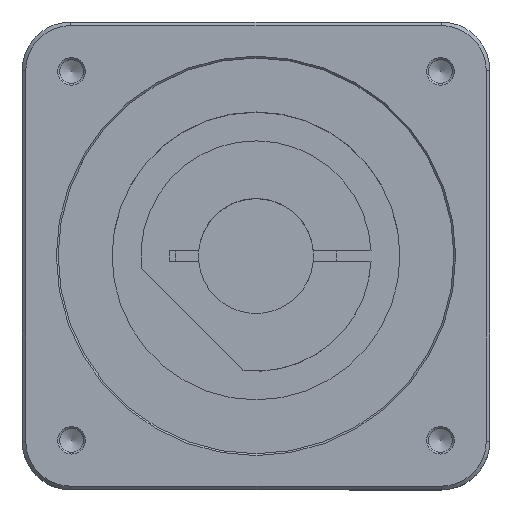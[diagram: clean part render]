
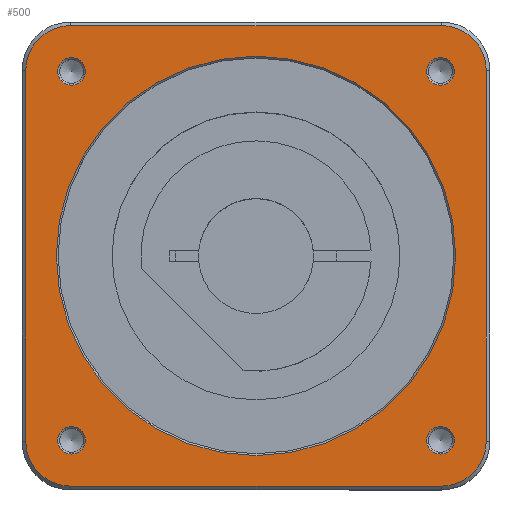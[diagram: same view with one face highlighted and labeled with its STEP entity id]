
A CAD part, top view. The second image highlights one B-rep face of the part: STEP entity #500.
In plain terms, the highlighted planar face has unit normal (0, 0, 1).
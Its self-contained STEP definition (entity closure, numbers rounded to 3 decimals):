
#366=CARTESIAN_POINT('',(-47.442,51.265,206.));
#367=VERTEX_POINT('',#366);
#368=CARTESIAN_POINT('',(-51.265,51.265,206.));
#369=DIRECTION('',(0.0,0.0,1.0));
#370=DIRECTION('',(-1.0,0.0,0.0));
#371=AXIS2_PLACEMENT_3D('',#368,#369,#370);
#372=CIRCLE('',#371,3.823);
#373=EDGE_CURVE('',#367,#367,#372,.T.);
#378=CARTESIAN_POINT('',(0.,0.,206.));
#379=DIRECTION('',(0.0,0.0,1.0));
#380=DIRECTION('',(0.0,-1.0,0.0));
#381=AXIS2_PLACEMENT_3D('',#378,#379,#380);
#382=PLANE('',#381);
#383=CARTESIAN_POINT('',(64.,51.5,206.0));
#384=VERTEX_POINT('',#383);
#385=CARTESIAN_POINT('',(64.,-51.5,206.0));
#386=VERTEX_POINT('',#385);
#387=CARTESIAN_POINT('',(64.0,51.5,206.0));
#388=DIRECTION('',(0.0,-1.0,0.0));
#389=VECTOR('',#388,103.0);
#390=LINE('',#387,#389);
#391=EDGE_CURVE('',#384,#386,#390,.T.);
#392=ORIENTED_EDGE('',*,*,#391,.F.);
#393=CARTESIAN_POINT('',(51.5,64.,206.0));
#394=VERTEX_POINT('',#393);
#395=CARTESIAN_POINT('',(51.5,51.5,206.0));
#396=DIRECTION('',(0.,0.,-1.0));
#397=DIRECTION('',(0.707,0.707,0.));
#398=AXIS2_PLACEMENT_3D('',#395,#396,#397);
#399=CIRCLE('',#398,12.5);
#400=EDGE_CURVE('',#394,#384,#399,.T.);
#401=ORIENTED_EDGE('',*,*,#400,.F.);
#402=CARTESIAN_POINT('',(-51.5,64.,206.));
#403=VERTEX_POINT('',#402);
#404=CARTESIAN_POINT('',(-51.5,64.,206.));
#405=DIRECTION('',(1.0,0.0,0.0));
#406=VECTOR('',#405,103.0);
#407=LINE('',#404,#406);
#408=EDGE_CURVE('',#403,#394,#407,.T.);
#409=ORIENTED_EDGE('',*,*,#408,.F.);
#410=CARTESIAN_POINT('',(-64.,51.5,206.));
#411=VERTEX_POINT('',#410);
#412=CARTESIAN_POINT('',(-51.5,51.5,206.));
#413=DIRECTION('',(0.,0.,-1.0));
#414=DIRECTION('',(-0.707,0.707,0.));
#415=AXIS2_PLACEMENT_3D('',#412,#413,#414);
#416=CIRCLE('',#415,12.5);
#417=EDGE_CURVE('',#411,#403,#416,.T.);
#418=ORIENTED_EDGE('',*,*,#417,.F.);
#419=CARTESIAN_POINT('',(-64.,-51.5,206.));
#420=VERTEX_POINT('',#419);
#421=CARTESIAN_POINT('',(-64.,-51.5,206.));
#422=DIRECTION('',(0.0,1.0,0.0));
#423=VECTOR('',#422,103.);
#424=LINE('',#421,#423);
#425=EDGE_CURVE('',#420,#411,#424,.T.);
#426=ORIENTED_EDGE('',*,*,#425,.F.);
#427=CARTESIAN_POINT('',(-51.5,-64.,206.));
#428=VERTEX_POINT('',#427);
#429=CARTESIAN_POINT('',(-51.5,-51.5,206.));
#430=DIRECTION('',(0.,0.,-1.0));
#431=DIRECTION('',(-0.707,-0.707,0.));
#432=AXIS2_PLACEMENT_3D('',#429,#430,#431);
#433=CIRCLE('',#432,12.5);
#434=EDGE_CURVE('',#428,#420,#433,.T.);
#435=ORIENTED_EDGE('',*,*,#434,.F.);
#436=CARTESIAN_POINT('',(51.5,-64.,206.0));
#437=VERTEX_POINT('',#436);
#438=CARTESIAN_POINT('',(51.5,-64.,206.0));
#439=DIRECTION('',(-1.0,0.0,0.0));
#440=VECTOR('',#439,103.);
#441=LINE('',#438,#440);
#442=EDGE_CURVE('',#437,#428,#441,.T.);
#443=ORIENTED_EDGE('',*,*,#442,.F.);
#444=CARTESIAN_POINT('',(51.5,-51.5,206.0));
#445=DIRECTION('',(0.,0.,-1.0));
#446=DIRECTION('',(0.707,-0.707,0.));
#447=AXIS2_PLACEMENT_3D('',#444,#445,#446);
#448=CIRCLE('',#447,12.5);
#449=EDGE_CURVE('',#386,#437,#448,.T.);
#450=ORIENTED_EDGE('',*,*,#449,.F.);
#451=EDGE_LOOP('',(#392,#401,#409,#418,#426,#435,#443,#450));
#452=FACE_OUTER_BOUND('',#451,.T.);
#453=CARTESIAN_POINT('',(-51.265,-47.442,206.));
#454=VERTEX_POINT('',#453);
#455=CARTESIAN_POINT('',(-51.265,-51.265,206.));
#456=DIRECTION('',(0.0,0.0,1.0));
#457=DIRECTION('',(0.0,-1.0,0.0));
#458=AXIS2_PLACEMENT_3D('',#455,#456,#457);
#459=CIRCLE('',#458,3.823);
#460=EDGE_CURVE('',#454,#454,#459,.T.);
#461=ORIENTED_EDGE('',*,*,#460,.F.);
#462=EDGE_LOOP('',(#461));
#463=FACE_BOUND('',#462,.T.);
#464=CARTESIAN_POINT('',(51.265,47.442,206.0));
#465=VERTEX_POINT('',#464);
#466=CARTESIAN_POINT('',(51.265,51.265,206.0));
#467=DIRECTION('',(0.0,0.0,1.0));
#468=DIRECTION('',(0.0,1.0,0.0));
#469=AXIS2_PLACEMENT_3D('',#466,#467,#468);
#470=CIRCLE('',#469,3.823);
#471=EDGE_CURVE('',#465,#465,#470,.T.);
#472=ORIENTED_EDGE('',*,*,#471,.F.);
#473=EDGE_LOOP('',(#472));
#474=FACE_BOUND('',#473,.T.);
#475=CARTESIAN_POINT('',(0.,-55.5,206.));
#476=VERTEX_POINT('',#475);
#477=CARTESIAN_POINT('',(0.,0.,206.));
#478=DIRECTION('',(0.0,0.0,1.0));
#479=DIRECTION('',(0.0,1.0,0.0));
#480=AXIS2_PLACEMENT_3D('',#477,#478,#479);
#481=CIRCLE('',#480,55.5);
#482=EDGE_CURVE('',#476,#476,#481,.T.);
#483=ORIENTED_EDGE('',*,*,#482,.F.);
#484=EDGE_LOOP('',(#483));
#485=FACE_BOUND('',#484,.T.);
#486=CARTESIAN_POINT('',(47.442,-51.265,206.0));
#487=VERTEX_POINT('',#486);
#488=CARTESIAN_POINT('',(51.265,-51.265,206.0));
#489=DIRECTION('',(0.0,0.0,1.0));
#490=DIRECTION('',(1.0,0.0,0.0));
#491=AXIS2_PLACEMENT_3D('',#488,#489,#490);
#492=CIRCLE('',#491,3.823);
#493=EDGE_CURVE('',#487,#487,#492,.T.);
#494=ORIENTED_EDGE('',*,*,#493,.F.);
#495=EDGE_LOOP('',(#494));
#496=FACE_BOUND('',#495,.T.);
#497=ORIENTED_EDGE('',*,*,#373,.F.);
#498=EDGE_LOOP('',(#497));
#499=FACE_BOUND('',#498,.T.);
#500=ADVANCED_FACE('',(#452,#463,#474,#485,#496,#499),#382,.T.);
